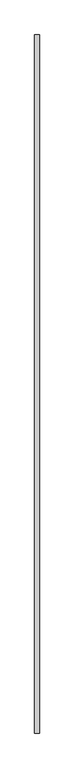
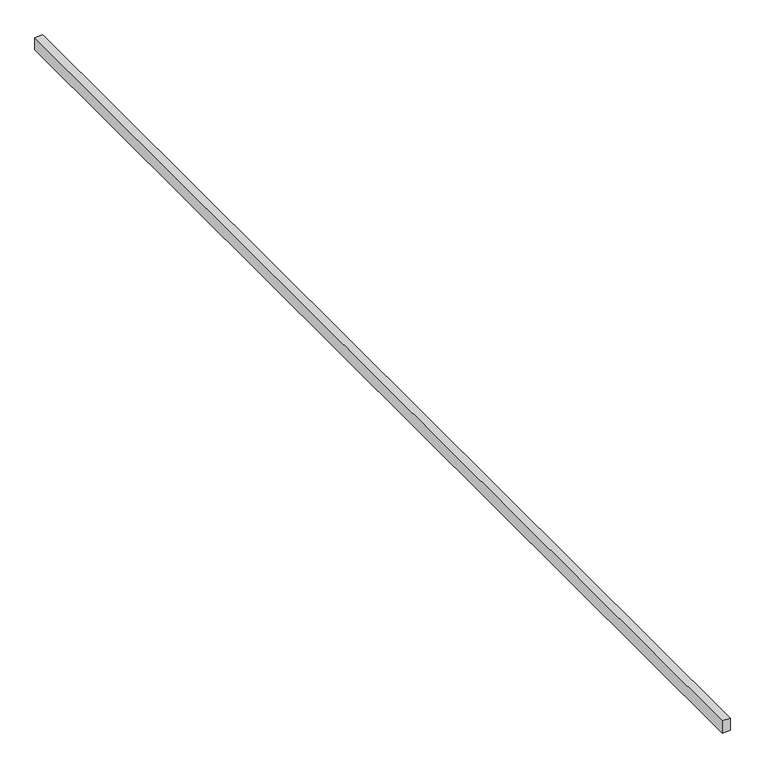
"""IFC4 building model written with IfcOpenShell, lengths in millimetres: proxy geometry, BHMS_Curtain Ext3 : BHMS_Curtain Ext."""

from ifc_helpers import new_model, si_unit, frame, origin, place, context, project, spatial, polyline, outline, extrude, source, transform, mapped, element, save


def generic_models_d385bf97(model_context):
    return source(origin(), model_context, "Body", "SweptSolid", [
        extrude(outline(polyline([(35739.0544127, 574.904555), (35739.0544127, -5851.8678325), (35696.6232154, -5851.8678325), (35696.6232154, 574.904555), (35739.0544127, 574.904555)])), frame((0.0, 0.0, 2100.0), z_axis=(0.0, 0.0, 1.0), x_axis=(1.0, 0.0, 0.0)), (0.0, 0.0, 1.0), 70.0),
    ])


if __name__ == "__main__":
    model = new_model("IFC4")
    model_context = context("Model", 3, world=origin())
    ifc_project = project(units=[si_unit("LENGTHUNIT", "METRE", prefix="MILLI")], contexts=[model_context])
    site = spatial("IfcSite", under=ifc_project)
    building = spatial("IfcBuilding", under=site)
    placement = place(None, origin())
    generic_models_shape = generic_models_d385bf97(model_context)
    element("IfcBuildingElementProxy", 1, Name="BHMS_Curtain Ext3 : BHMS_Curtain Ext", ObjectType="BHMS_Curtain Ext3 : BHMS_Curtain Ext", at=placement, inside=building, context=model_context, shape_type="MappedRepresentation", body=[
        mapped(generic_models_shape, transform((0.0, 0.0, 0.0), x_axis=(1.0, 0.0, 0.0), y_axis=(0.0, 1.0, 0.0), z_axis=(0.0, 0.0, 1.0))),
    ])
    save(model, "model.ifc")
